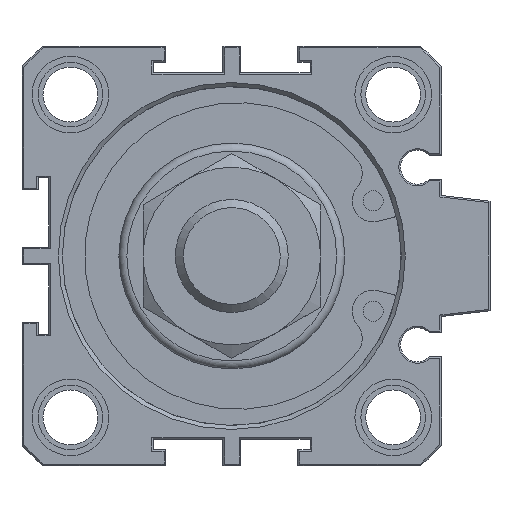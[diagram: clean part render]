
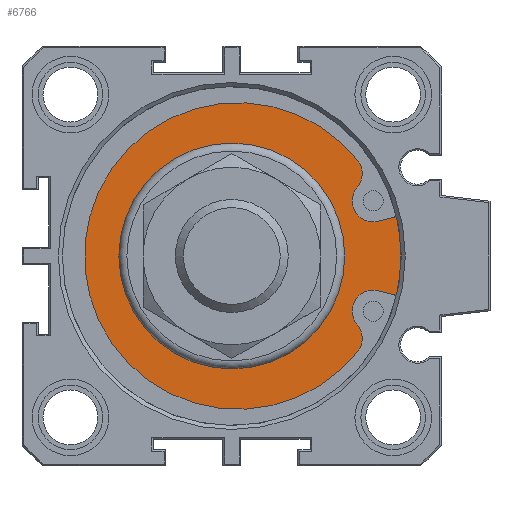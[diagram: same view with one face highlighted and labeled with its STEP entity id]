
A CAD part, front view. The second image highlights one B-rep face of the part: STEP entity #6766.
In plain terms, the highlighted planar face has unit normal (0, -1, 0).
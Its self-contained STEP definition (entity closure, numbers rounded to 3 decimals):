
#52=LINE('',#9381,#448);
#53=LINE('',#9393,#449);
#448=VECTOR('',#7865,1000.);
#449=VECTOR('',#7876,1000.);
#1324=ORIENTED_EDGE('',*,*,#2441,.F.);
#1325=ORIENTED_EDGE('',*,*,#2445,.F.);
#1326=ORIENTED_EDGE('',*,*,#2446,.T.);
#1327=ORIENTED_EDGE('',*,*,#2447,.T.);
#1328=ORIENTED_EDGE('',*,*,#2448,.T.);
#1329=ORIENTED_EDGE('',*,*,#2449,.T.);
#1330=ORIENTED_EDGE('',*,*,#2450,.T.);
#1331=ORIENTED_EDGE('',*,*,#2451,.T.);
#1332=ORIENTED_EDGE('',*,*,#2452,.T.);
#2441=EDGE_CURVE('',#3030,#3030,#3395,.F.);
#2445=EDGE_CURVE('',#3034,#3035,#3399,.T.);
#2446=EDGE_CURVE('',#3034,#3036,#52,.T.);
#2447=EDGE_CURVE('',#3036,#3037,#3400,.T.);
#2448=EDGE_CURVE('',#3037,#3038,#3401,.T.);
#2449=EDGE_CURVE('',#3038,#3039,#3402,.T.);
#2450=EDGE_CURVE('',#3039,#3040,#3403,.T.);
#2451=EDGE_CURVE('',#3040,#3041,#3404,.T.);
#2452=EDGE_CURVE('',#3041,#3035,#53,.T.);
#3030=VERTEX_POINT('',#9367);
#3034=VERTEX_POINT('',#9379);
#3035=VERTEX_POINT('',#9380);
#3036=VERTEX_POINT('',#9382);
#3037=VERTEX_POINT('',#9384);
#3038=VERTEX_POINT('',#9386);
#3039=VERTEX_POINT('',#9388);
#3040=VERTEX_POINT('',#9390);
#3041=VERTEX_POINT('',#9392);
#3395=CIRCLE('',#7165,14.);
#3399=CIRCLE('',#7173,22.25);
#3400=CIRCLE('',#7174,2.61);
#3401=CIRCLE('',#7175,2.61);
#3402=CIRCLE('',#7176,19.);
#3403=CIRCLE('',#7177,2.61);
#3404=CIRCLE('',#7178,2.61);
#3617=EDGE_LOOP('',(#1324));
#3618=EDGE_LOOP('',(#1325,#1326,#1327,#1328,#1329,#1330,#1331,#1332));
#4011=FACE_BOUND('',#3617,.T.);
#4012=FACE_BOUND('',#3618,.T.);
#4305=PLANE('',#7172);
#6766=ADVANCED_FACE('',(#4011,#4012),#4305,.F.);
#7165=AXIS2_PLACEMENT_3D('',#9366,#7847,#7848);
#7172=AXIS2_PLACEMENT_3D('',#9377,#7861,#7862);
#7173=AXIS2_PLACEMENT_3D('',#9378,#7863,#7864);
#7174=AXIS2_PLACEMENT_3D('',#9383,#7866,#7867);
#7175=AXIS2_PLACEMENT_3D('',#9385,#7868,#7869);
#7176=AXIS2_PLACEMENT_3D('',#9387,#7870,#7871);
#7177=AXIS2_PLACEMENT_3D('',#9389,#7872,#7873);
#7178=AXIS2_PLACEMENT_3D('',#9391,#7874,#7875);
#7847=DIRECTION('',(0.,1.,0.));
#7848=DIRECTION('',(-1.,0.,0.));
#7861=DIRECTION('',(0.,1.,0.));
#7862=DIRECTION('',(-1.,0.,0.));
#7863=DIRECTION('',(0.,1.,0.));
#7864=DIRECTION('',(-1.,0.,0.));
#7865=DIRECTION('',(-0.966,0.,-0.259));
#7866=DIRECTION('',(0.,1.,0.));
#7867=DIRECTION('',(1.,0.,0.));
#7868=DIRECTION('',(0.,-1.,0.));
#7869=DIRECTION('',(-1.,0.,0.));
#7870=DIRECTION('',(0.,-1.,0.));
#7871=DIRECTION('',(1.,0.,0.));
#7872=DIRECTION('',(0.,-1.,0.));
#7873=DIRECTION('',(-1.,0.,0.));
#7874=DIRECTION('',(0.,1.,0.));
#7875=DIRECTION('',(1.,0.,0.));
#7876=DIRECTION('',(0.966,0.,-0.259));
#9366=CARTESIAN_POINT('',(0.,4.,0.));
#9367=CARTESIAN_POINT('',(-14.,4.,0.));
#9377=CARTESIAN_POINT('',(0.,4.,-3.4));
#9378=CARTESIAN_POINT('',(0.,4.,0.));
#9379=CARTESIAN_POINT('',(21.626,4.,5.233));
#9380=CARTESIAN_POINT('',(21.626,4.,-5.233));
#9381=CARTESIAN_POINT('',(21.626,4.,5.233));
#9382=CARTESIAN_POINT('',(18.207,4.,4.317));
#9383=CARTESIAN_POINT('',(17.531,4.,6.838));
#9384=CARTESIAN_POINT('',(15.57,4.,8.56));
#9385=CARTESIAN_POINT('',(13.565,4.,10.23));
#9386=CARTESIAN_POINT('',(15.729,4.,11.688));
#9387=CARTESIAN_POINT('',(0.75,4.,0.));
#9388=CARTESIAN_POINT('',(15.729,4.,-11.688));
#9389=CARTESIAN_POINT('',(13.565,4.,-10.23));
#9390=CARTESIAN_POINT('',(15.57,4.,-8.56));
#9391=CARTESIAN_POINT('',(17.531,4.,-6.838));
#9392=CARTESIAN_POINT('',(18.207,4.,-4.317));
#9393=CARTESIAN_POINT('',(18.207,4.,-4.317));
